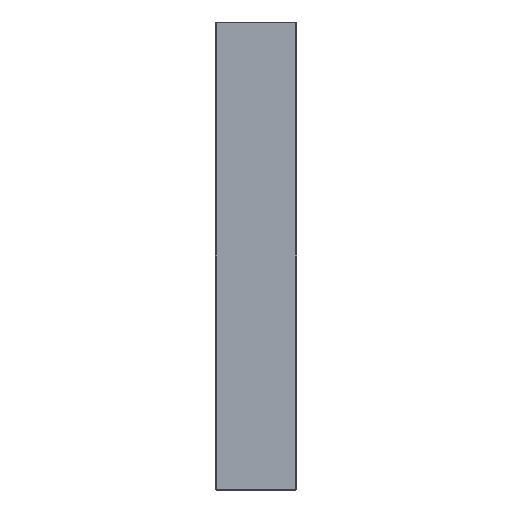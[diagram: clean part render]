
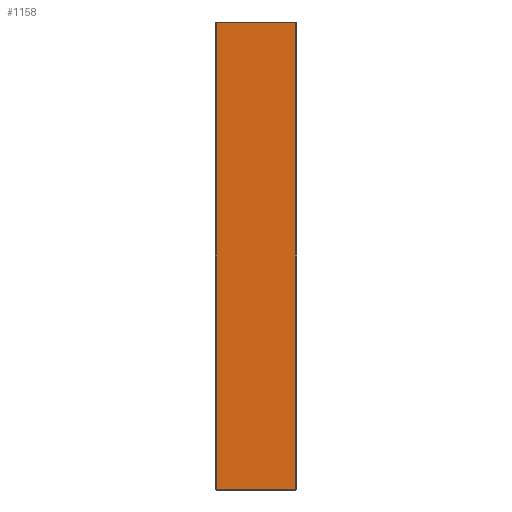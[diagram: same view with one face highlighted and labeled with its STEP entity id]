
A CAD part, left-side view. The second image highlights one B-rep face of the part: STEP entity #1158.
In plain terms, the highlighted planar face has unit normal (-1, 0, 0).
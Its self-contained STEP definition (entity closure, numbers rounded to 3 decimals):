
#54 = DIRECTION ( 'NONE',  ( 0., 1., 0. ) ) ;
#63 = LINE ( 'NONE', #757, #1902 ) ;
#71 = EDGE_CURVE ( 'NONE', #533, #843, #1473, .T. ) ;
#138 = DIRECTION ( 'NONE',  ( 1., 0., 0. ) ) ;
#180 = EDGE_CURVE ( 'NONE', #843, #1887, #1656, .T. ) ;
#248 = CARTESIAN_POINT ( 'NONE',  ( -198., 1., 247. ) ) ;
#294 = AXIS2_PLACEMENT_3D ( 'NONE', #1534, #138, #1463 ) ;
#306 = DIRECTION ( 'NONE',  ( 0., 0., 1. ) ) ;
#364 = VERTEX_POINT ( 'NONE', #248 ) ;
#369 = EDGE_CURVE ( 'NONE', #1887, #364, #63, .T. ) ;
#533 = VERTEX_POINT ( 'NONE', #600 ) ;
#559 = CARTESIAN_POINT ( 'NONE',  ( -198., 1., -247. ) ) ;
#600 = CARTESIAN_POINT ( 'NONE',  ( -198., 85., 247. ) ) ;
#659 = LINE ( 'NONE', #1788, #1624 ) ;
#708 = ORIENTED_EDGE ( 'NONE', *, *, #369, .T. ) ;
#742 = ORIENTED_EDGE ( 'NONE', *, *, #180, .T. ) ;
#757 = CARTESIAN_POINT ( 'NONE',  ( -198., 1., 248. ) ) ;
#830 = ORIENTED_EDGE ( 'NONE', *, *, #71, .T. ) ;
#843 = VERTEX_POINT ( 'NONE', #1390 ) ;
#892 = DIRECTION ( 'NONE',  ( 0., -1., 0. ) ) ;
#920 = CARTESIAN_POINT ( 'NONE',  ( -198., 86., -247. ) ) ;
#938 = EDGE_CURVE ( 'NONE', #364, #533, #659, .T. ) ;
#1032 = ORIENTED_EDGE ( 'NONE', *, *, #938, .T. ) ;
#1158 = ADVANCED_FACE ( 'NONE', ( #1356 ), #1362, .F. ) ;
#1356 = FACE_OUTER_BOUND ( 'NONE', #1743, .T. ) ;
#1362 = PLANE ( 'NONE',  #294 ) ;
#1379 = VECTOR ( 'NONE', #892, 1000. ) ;
#1390 = CARTESIAN_POINT ( 'NONE',  ( -198., 85., -247. ) ) ;
#1430 = VECTOR ( 'NONE', #1437, 1000. ) ;
#1437 = DIRECTION ( 'NONE',  ( 0., 0., -1. ) ) ;
#1463 = DIRECTION ( 'NONE',  ( 0., 0., -1. ) ) ;
#1473 = LINE ( 'NONE', #1532, #1430 ) ;
#1532 = CARTESIAN_POINT ( 'NONE',  ( -198., 85., 248. ) ) ;
#1534 = CARTESIAN_POINT ( 'NONE',  ( -198., 86., 248. ) ) ;
#1624 = VECTOR ( 'NONE', #54, 1000. ) ;
#1656 = LINE ( 'NONE', #920, #1379 ) ;
#1743 = EDGE_LOOP ( 'NONE', ( #1032, #830, #742, #708 ) ) ;
#1788 = CARTESIAN_POINT ( 'NONE',  ( -198., 86., 247. ) ) ;
#1887 = VERTEX_POINT ( 'NONE', #559 ) ;
#1902 = VECTOR ( 'NONE', #306, 1000. ) ;
